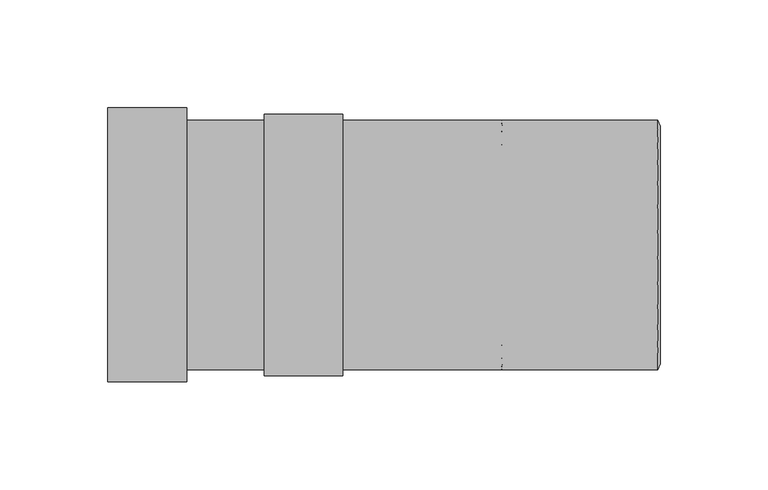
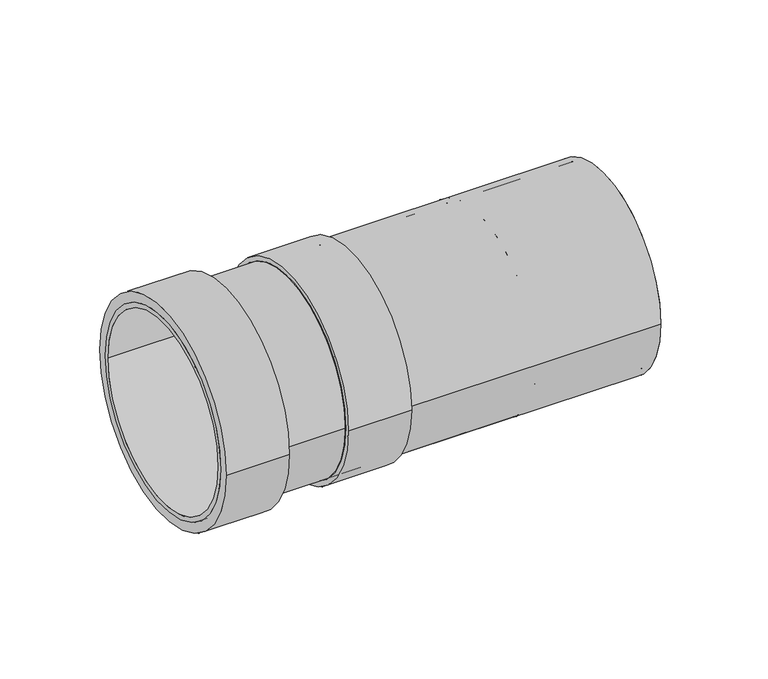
"""IFC4 building model written with IfcOpenShell, lengths in millimetres: pipe fitting geometry, Superdrain HTL-Long socket : Superdrain HTL-Long socket."""

from ifc_helpers import new_model, si_unit, point, frame, origin, origin_2d, place, context, project, spatial, polyline, circle_curve, trimmed, segment, composite_curve, outline, extrude, source, transform, mapped, element, save
from ifc_brep_helpers import plane_surface, revolved_surface, advanced_brep


def pipe_fitting_799c62f6(model_context):
    return source(origin(), model_context, "Body", "SolidModel", [
        extrude(outline(composite_curve([segment(trimmed(circle_curve(origin_2d(), 57.75), [point((-57.75, 0.0))], [point((57.75, 0.0))], False, "CARTESIAN"), True, "CONTINUOUS"), segment(trimmed(circle_curve(origin_2d(), 57.75), [point((57.75, 0.0))], [point((-57.75, 0.0))], False, "CARTESIAN"), True, "CONTINUOUS")], self_intersect=False), holes=[composite_curve([segment(trimmed(circle_curve(origin_2d(), 55.0), [point((-55.0, 0.0))], [point((55.0, 0.0))], True, "CARTESIAN"), True, "CONTINUOUS"), segment(trimmed(circle_curve(origin_2d(), 55.0), [point((55.0, 0.0))], [point((-55.0, 0.0))], True, "CARTESIAN"), True, "CONTINUOUS")], self_intersect=False)]), frame((-119.6, 0.0, 0.0), z_axis=(1.0, 0.0, 0.0), x_axis=(0.0, 1.0, 0.0)), (0.0, 0.0, 1.0), 182.6),
        extrude(outline(composite_curve([segment(trimmed(circle_curve(origin_2d(), 60.6375), [point((-60.6375, 0.0))], [point((60.6375, 0.0))], False, "CARTESIAN"), True, "CONTINUOUS"), segment(trimmed(circle_curve(origin_2d(), 60.6375), [point((60.6375, 0.0))], [point((-60.6375, 0.0))], False, "CARTESIAN"), True, "CONTINUOUS")], self_intersect=False), holes=[composite_curve([segment(trimmed(circle_curve(origin_2d(), 55.0), [point((-55.0, 0.0))], [point((55.0, 0.0))], True, "CARTESIAN"), True, "CONTINUOUS"), segment(trimmed(circle_curve(origin_2d(), 55.0), [point((55.0, 0.0))], [point((-55.0, 0.0))], True, "CARTESIAN"), True, "CONTINUOUS")], self_intersect=False)]), frame((-119.6, 0.0, 0.0), z_axis=(1.0, 0.0, 0.0), x_axis=(0.0, 1.0, 0.0)), (0.0, 0.0, 1.0), 36.52),
        advanced_brep(
        [(64.0, -55.0, 0.0), (64.0, 55.0, 0.0), (63.0, -57.75, 0.0), (63.0, 57.75, 0.0)],
        [
            (0, 1, circle_curve(frame((64.0, 0.0, 0.0), z_axis=(1.0, 0.0, 0.0), x_axis=(0.0, -1.0, 0.0)), 55.0)),
            (1, 0, circle_curve(frame((64.0, 0.0, 0.0), z_axis=(1.0, 0.0, 0.0), x_axis=(0.0, 1.0, 0.0)), 55.0)),
            (2, 3, circle_curve(frame((63.0, 0.0, 0.0), z_axis=(-1.0, 0.0, 0.0), x_axis=(0.0, 1.0, 0.0)), 57.75)),
            (3, 2, circle_curve(frame((63.0, 0.0, 0.0), z_axis=(-1.0, 0.0, 0.0), x_axis=(0.0, -1.0, 0.0)), 57.75)),
            (3, 1),
            (0, 2),
        ],
        [
            plane_surface(frame((64.0, 0.0, 0.0), z_axis=(1.0, 0.0, 0.0), x_axis=(0.0, 0.0, -1.0))),
            plane_surface(frame((63.0, 0.0, 0.0), z_axis=(-1.0, 0.0, 0.0), x_axis=(0.0, 0.0, -1.0))),
            revolved_surface(polyline([(64.0, -55.0, 0.0), (63.0, -57.75, 0.0)]), (84.0, 0.0, 0.0), (-1.0, 0.0, 0.0)),
            revolved_surface(polyline([(64.0, 55.0, 0.0), (63.0, 57.75, 0.0)]), (84.0, 0.0, 0.0), (-1.0, 0.0, 0.0)),
        ],
        [
            (0, [[1, 2]]),
            (1, [[3, 4]]),
            (2, [[-4, 5, -1, 6]]),
            (3, [[-3, -6, -2, -5]]),
        ],
    ),
        extrude(outline(composite_curve([segment(trimmed(circle_curve(origin_2d(), 57.75), [point((-57.75, 0.0))], [point((57.75, 0.0))], False, "CARTESIAN"), True, "CONTINUOUS"), segment(trimmed(circle_curve(origin_2d(), 57.75), [point((57.75, 0.0))], [point((-57.75, 0.0))], False, "CARTESIAN"), True, "CONTINUOUS")], self_intersect=False), holes=[composite_curve([segment(trimmed(circle_curve(origin_2d(), 55.0), [point((-55.0, 0.0))], [point((55.0, 0.0))], True, "CARTESIAN"), True, "CONTINUOUS"), segment(trimmed(circle_curve(origin_2d(), 55.0), [point((55.0, 0.0))], [point((-55.0, 0.0))], True, "CARTESIAN"), True, "CONTINUOUS")], self_intersect=False)]), frame((-192.0, 0.0, 0.0), z_axis=(1.0, 0.0, 0.0), x_axis=(0.0, 1.0, 0.0)), (0.0, 0.0, 1.0), 182.6),
        extrude(outline(composite_curve([segment(trimmed(circle_curve(origin_2d(), 63.525), [point((-63.525, 0.0))], [point((63.525, 0.0))], False, "CARTESIAN"), True, "CONTINUOUS"), segment(trimmed(circle_curve(origin_2d(), 63.525), [point((63.525, 0.0))], [point((-63.525, 0.0))], False, "CARTESIAN"), True, "CONTINUOUS")], self_intersect=False), holes=[composite_curve([segment(trimmed(circle_curve(origin_2d(), 55.0), [point((-55.0, 0.0))], [point((55.0, 0.0))], True, "CARTESIAN"), True, "CONTINUOUS"), segment(trimmed(circle_curve(origin_2d(), 55.0), [point((55.0, 0.0))], [point((-55.0, 0.0))], True, "CARTESIAN"), True, "CONTINUOUS")], self_intersect=False)]), frame((-192.0, 0.0, 0.0), z_axis=(1.0, 0.0, 0.0), x_axis=(0.0, 1.0, 0.0)), (0.0, 0.0, 1.0), 36.52),
        advanced_brep(
        [(-8.4, -55.0, 0.0), (-8.4, 55.0, 0.0), (-9.4, -57.75, 0.0), (-9.4, 57.75, 0.0)],
        [
            (0, 1, circle_curve(frame((-8.4, 0.0, 0.0), z_axis=(1.0, 0.0, 0.0), x_axis=(0.0, -1.0, 0.0)), 55.0)),
            (1, 0, circle_curve(frame((-8.4, 0.0, 0.0), z_axis=(1.0, 0.0, 0.0), x_axis=(0.0, 1.0, 0.0)), 55.0)),
            (2, 3, circle_curve(frame((-9.4, 0.0, 0.0), z_axis=(-1.0, 0.0, 0.0), x_axis=(0.0, 1.0, 0.0)), 57.75)),
            (3, 2, circle_curve(frame((-9.4, 0.0, 0.0), z_axis=(-1.0, 0.0, 0.0), x_axis=(0.0, -1.0, 0.0)), 57.75)),
            (3, 1),
            (0, 2),
        ],
        [
            plane_surface(frame((-8.4, 0.0, 0.0), z_axis=(1.0, 0.0, 0.0), x_axis=(0.0, 0.0, -1.0))),
            plane_surface(frame((-9.4, 0.0, 0.0), z_axis=(-1.0, 0.0, 0.0), x_axis=(0.0, 0.0, -1.0))),
            revolved_surface(polyline([(-8.4, -55.0, 0.0), (-9.4, -57.75, 0.0)]), (11.6, 0.0, 0.0), (-1.0, 0.0, 0.0)),
            revolved_surface(polyline([(-8.4, 55.0, 0.0), (-9.4, 57.75, 0.0)]), (11.6, 0.0, 0.0), (-1.0, 0.0, 0.0)),
        ],
        [
            (0, [[1, 2]]),
            (1, [[3, 4]]),
            (2, [[-4, 5, -1, 6]]),
            (3, [[-3, -6, -2, -5]]),
        ],
    ),
        extrude(outline(composite_curve([segment(trimmed(circle_curve(origin_2d(), 55.0), [point((-55.0, 0.0))], [point((55.0, 0.0))], False, "CARTESIAN"), True, "CONTINUOUS"), segment(trimmed(circle_curve(origin_2d(), 55.0), [point((55.0, 0.0))], [point((-55.0, 0.0))], False, "CARTESIAN"), True, "CONTINUOUS")], self_intersect=False)), frame((-9.4, 0.0, 0.0), z_axis=(1.0, 0.0, 0.0), x_axis=(0.0, 1.0, 0.0)), (0.0, 0.0, 1.0), 72.4),
    ])


if __name__ == "__main__":
    model = new_model("IFC4")
    model_context = context("Model", 3, world=origin())
    ifc_project = project(units=[si_unit("LENGTHUNIT", "METRE", prefix="MILLI")], contexts=[model_context])
    site = spatial("IfcSite", under=ifc_project)
    building = spatial("IfcBuilding", under=site)
    placement = place(None, origin())
    pipe_fitting_shape = pipe_fitting_799c62f6(model_context)
    element("IfcPipeFitting", 1, ObjectType="Superdrain HTL-Long socket : Superdrain HTL-Long socket", at=placement, inside=building, context=model_context, shape_type="MappedRepresentation", body=[
        mapped(pipe_fitting_shape, transform((0.0, 0.0, 0.0), x_axis=(1.0, 0.0, 0.0), y_axis=(0.0, 1.0, 0.0), z_axis=(0.0, 0.0, 1.0))),
    ])
    save(model, "model.ifc")
